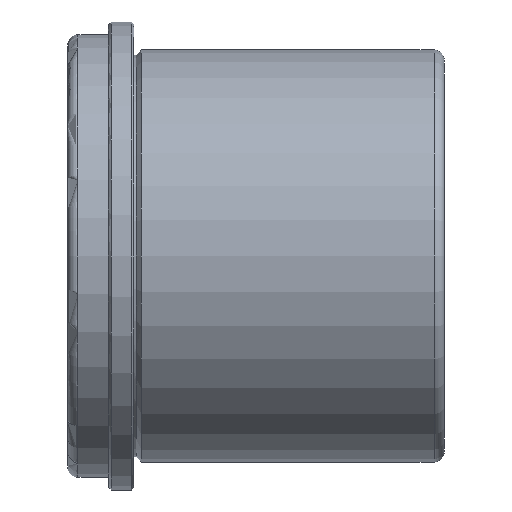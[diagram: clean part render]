
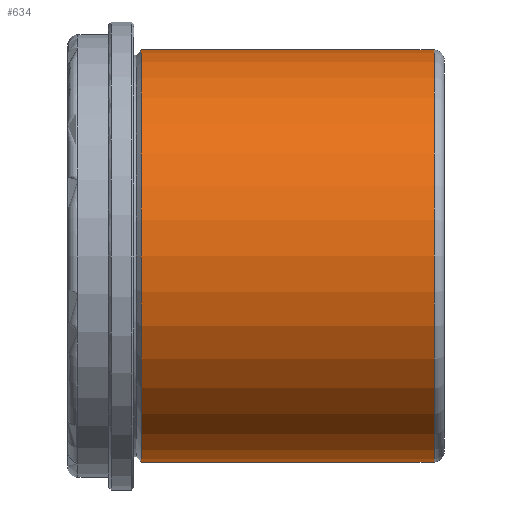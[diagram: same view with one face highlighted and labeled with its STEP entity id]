
A CAD part, front view. The second image highlights one B-rep face of the part: STEP entity #634.
In plain terms, the highlighted cylindrical face has radius 40.5 mm (diameter 81 mm), a partial arc.
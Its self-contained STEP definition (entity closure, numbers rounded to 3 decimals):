
#420=CARTESIAN_POINT('Line Origine',(61.,0.,40.5)) ;
#424=CARTESIAN_POINT('Vertex',(59.,0.,40.5)) ;
#426=CARTESIAN_POINT('Vertex',(1.414,0.,40.5)) ;
#440=CARTESIAN_POINT('Vertex',(59.,0.,-40.5)) ;
#443=CARTESIAN_POINT('Line Origine',(61.,0.,-40.5)) ;
#447=CARTESIAN_POINT('Vertex',(1.414,0.,-40.5)) ;
#597=CARTESIAN_POINT('Axis2P3D Location',(61.,0.,0.)) ;
#602=CARTESIAN_POINT('Axis2P3D Location',(59.,0.,0.)) ;
#606=CARTESIAN_POINT('Vertex',(59.,-40.5,0.)) ;
#609=CARTESIAN_POINT('Axis2P3D Location',(59.,0.,0.)) ;
#614=CARTESIAN_POINT('Axis2P3D Location',(1.414,0.,0.)) ;
#618=CARTESIAN_POINT('Vertex',(1.414,-40.5,0.)) ;
#621=CARTESIAN_POINT('Axis2P3D Location',(1.414,0.,0.)) ;
#421=DIRECTION('Vector Direction',(-1.,0.,0.)) ;
#444=DIRECTION('Vector Direction',(-1.,0.,0.)) ;
#598=DIRECTION('Axis2P3D Direction',(-1.,-0.,-0.)) ;
#599=DIRECTION('Axis2P3D XDirection',(0.,0.,-1.)) ;
#603=DIRECTION('Axis2P3D Direction',(-1.,-0.,-0.)) ;
#610=DIRECTION('Axis2P3D Direction',(-1.,-0.,-0.)) ;
#615=DIRECTION('Axis2P3D Direction',(-1.,-0.,-0.)) ;
#622=DIRECTION('Axis2P3D Direction',(-1.,-0.,-0.)) ;
#600=AXIS2_PLACEMENT_3D('Cylinder Axis2P3D',#597,#598,#599) ;
#604=AXIS2_PLACEMENT_3D('Circle Axis2P3D',#602,#603,$) ;
#611=AXIS2_PLACEMENT_3D('Circle Axis2P3D',#609,#610,$) ;
#616=AXIS2_PLACEMENT_3D('Circle Axis2P3D',#614,#615,$) ;
#623=AXIS2_PLACEMENT_3D('Circle Axis2P3D',#621,#622,$) ;
#627=ORIENTED_EDGE('',*,*,#449,.T.) ;
#628=ORIENTED_EDGE('',*,*,#608,.F.) ;
#629=ORIENTED_EDGE('',*,*,#613,.F.) ;
#630=ORIENTED_EDGE('',*,*,#428,.T.) ;
#631=ORIENTED_EDGE('',*,*,#620,.T.) ;
#632=ORIENTED_EDGE('',*,*,#625,.T.) ;
#422=VECTOR('Line Direction',#421,1.) ;
#445=VECTOR('Line Direction',#444,1.) ;
#634=ADVANCED_FACE('FAMO-SF1-A63 x 74',(#633),#601,.T.) ;
#605=CIRCLE('generated circle',#604,40.5) ;
#612=CIRCLE('generated circle',#611,40.5) ;
#617=CIRCLE('generated circle',#616,40.5) ;
#624=CIRCLE('generated circle',#623,40.5) ;
#601=CYLINDRICAL_SURFACE('generated cylinder',#600,40.5) ;
#428=EDGE_CURVE('',#425,#427,#423,.T.) ;
#449=EDGE_CURVE('',#448,#441,#446,.F.) ;
#608=EDGE_CURVE('',#607,#441,#605,.F.) ;
#613=EDGE_CURVE('',#425,#607,#612,.F.) ;
#620=EDGE_CURVE('',#427,#619,#617,.F.) ;
#625=EDGE_CURVE('',#619,#448,#624,.F.) ;
#626=EDGE_LOOP('',(#627,#628,#629,#630,#631,#632)) ;
#633=FACE_OUTER_BOUND('',#626,.T.) ;
#423=LINE('Line',#420,#422) ;
#446=LINE('Line',#443,#445) ;
#425=VERTEX_POINT('',#424) ;
#427=VERTEX_POINT('',#426) ;
#441=VERTEX_POINT('',#440) ;
#448=VERTEX_POINT('',#447) ;
#607=VERTEX_POINT('',#606) ;
#619=VERTEX_POINT('',#618) ;
